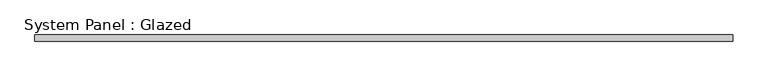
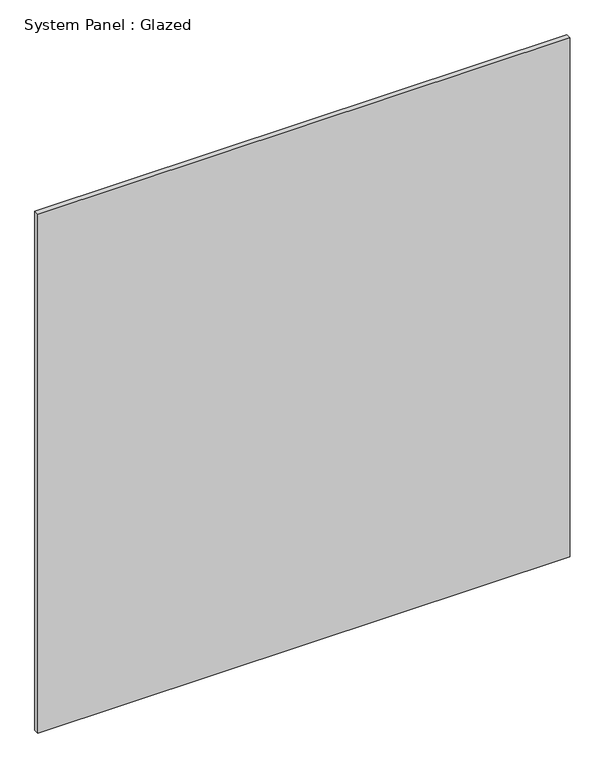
"""IFC4 building model written with IfcOpenShell, lengths in millimetres: plate geometry, System Panel : Glazed."""

from ifc_helpers import new_model, si_unit, origin, origin_with_axes, place, context, project, spatial, polyline, outline, extrude, source, transform, mapped, element, save


def system_panel_glazed_8f60b1b7(model_context):
    return source(origin(), model_context, "Body", "SweptSolid", [
        extrude(outline(polyline([(1346.2, 19.05), (-1346.2, 19.05), (-1346.2, 44.45), (1346.2, 44.45), (1346.2, 19.05)])), origin_with_axes(), (0.0, 0.0, 1.0), 2774.95),
    ])


if __name__ == "__main__":
    model = new_model("IFC4")
    model_context = context("Model", 3, world=origin())
    ifc_project = project(units=[si_unit("LENGTHUNIT", "METRE", prefix="MILLI")], contexts=[model_context])
    site = spatial("IfcSite", under=ifc_project)
    building = spatial("IfcBuilding", under=site)
    placement = place(None, origin())
    system_panel_glazed_shape = system_panel_glazed_8f60b1b7(model_context)
    element("IfcPlate", 1, ObjectType="System Panel : Glazed", at=placement, inside=building, context=model_context, shape_type="MappedRepresentation", body=[
        mapped(system_panel_glazed_shape, transform((0.0, 0.0, 0.0), x_axis=(1.0, 0.0, 0.0), y_axis=(0.0, 1.0, 0.0), z_axis=(0.0, 0.0, 1.0))),
    ])
    save(model, "model.ifc")
